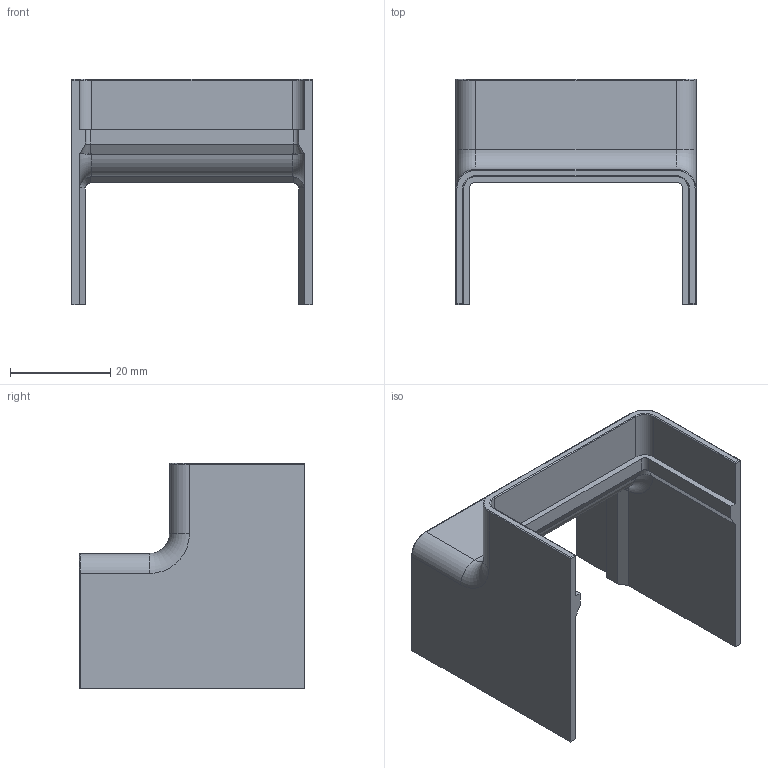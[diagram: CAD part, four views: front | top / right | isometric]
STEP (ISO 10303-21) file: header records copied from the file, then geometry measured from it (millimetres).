
FILE_DESCRIPTION (( 'STEP AP214' ), '1' );
FILE_NAME ('1.1080 Kulmapala johtokourulle 45.STEP', '2026-03-04T12:55:48', ( '' ), ( '' ), 'SwSTEP 2.0', 'SolidWorks 2025', '' );
FILE_SCHEMA (( 'AUTOMOTIVE_DESIGN' ));
Length unit declared in the file: millimetre
Products named in the file (1): 1.1080 Kulmapala johtokourulle 45
Bounding box: 48 x 45 x 45 mm (x, y, z)
Volume: 8231.7 mm3; surface area: 10773.3 mm2
Topology: 1 solids, 1 shells, 84 faces, 206 edges, 124 vertices
Faces by surface type: cylinder 34, plane 34, torus 12, cone 4
Entity records: 2593 total; most frequent: CARTESIAN_POINT 611, ORIENTED_EDGE 412, DIRECTION 412, EDGE_CURVE 206, AXIS2_PLACEMENT_3D 145, VERTEX_POINT 124, VECTOR 122, LINE 122
